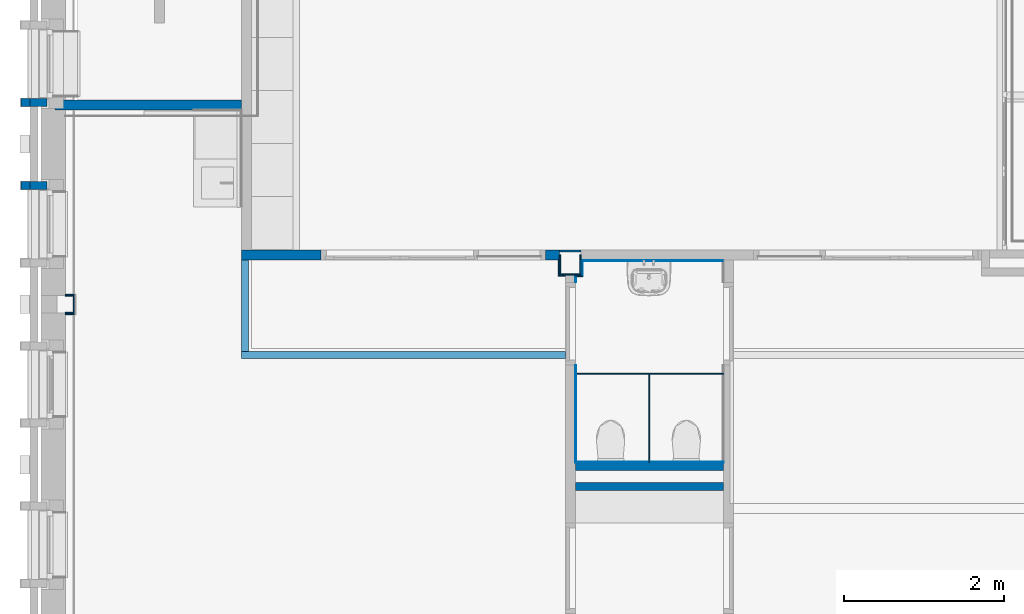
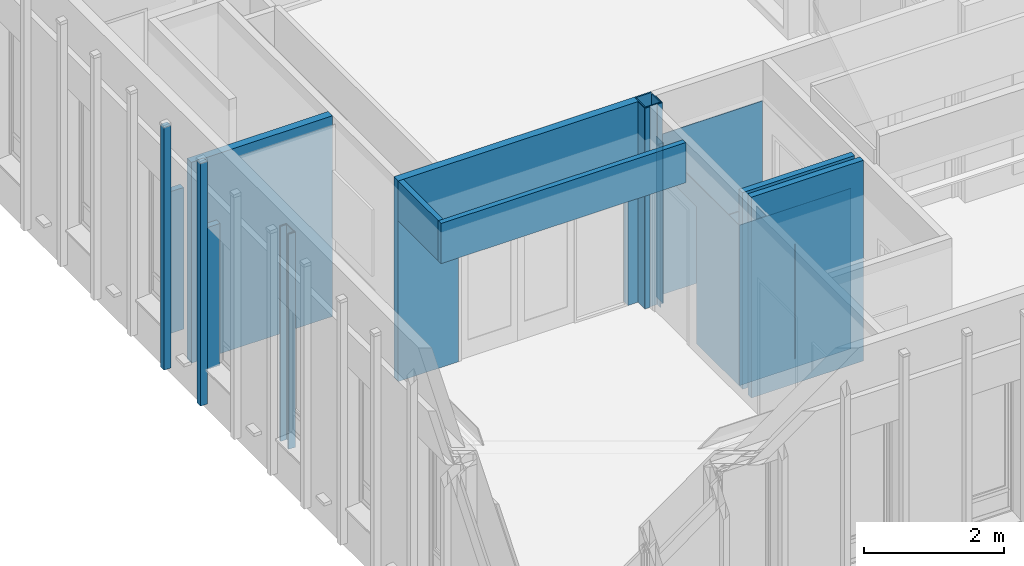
# One storey, part 34 of 118: 30 walls, 2 openings.
"""IFC2X3 building model written with IfcOpenShell, lengths in millimetres."""

import ifcopenshell
import ifcopenshell.guid

model = None  # the IFC model being written
_history = None  # IfcOwnerHistory: only IFC2X3 demands one
_inside = {}  # id of a spatial element -> (the spatial element, [elements in it])
_under = {}  # id of a project, library or spatial element -> (it, [spatial elements below it])
_declared = {}  # id of a project -> (the project, [libraries it declares])
_typed = {}  # id of a type object -> (the type object, [elements of that type])
_made_of = {}  # id of a material, layer set ... -> (it, [elements and type objects made of it])


def new_model(schema):
    """Start an empty IFC model of exactly this schema.

    Asked for "IFC4X3", IfcOpenShell would pick the latest addendum, in which some entities
    have other attributes; the version numbers below select the first issue.
    IFC2X3 requires an IfcOwnerHistory on every rooted entity: one is made here for all.
    """
    global model, _history
    if schema == "IFC4X3":
        model = ifcopenshell.file(schema_version=(4, 3, 0, 0))
    else:
        model = ifcopenshell.file(schema=schema)
    _inside.clear()
    _under.clear()
    _declared.clear()
    _typed.clear()
    _made_of.clear()
    _history = None
    if model.schema == "IFC2X3":
        org = make("IfcOrganization", Name="unknown")
        user = make(
            "IfcPersonAndOrganization",
            ThePerson=make("IfcPerson", FamilyName="unknown"),
            TheOrganization=org,
        )
        app = make(
            "IfcApplication",
            ApplicationDeveloper=org,
            Version="unknown",
            ApplicationFullName="unknown",
            ApplicationIdentifier="unknown",
        )
        _history = make(
            "IfcOwnerHistory",
            OwningUser=user,
            OwningApplication=app,
            ChangeAction="ADDED",
            CreationDate=0,
        )
    return model


def make(cls, **values):
    """One entity of the class cls with the attributes given. An attribute that is None is left unset."""
    return model.create_entity(
        cls, **{name: value for name, value in values.items() if value is not None}
    )


def entity(cls, *values):
    """Any entity or typed value of the class cls, its attributes in the order of the schema. None: left unset."""
    e = model.create_entity(cls)
    for i, value in enumerate(values):
        if value is not None:
            e[i] = value
    return e


def rooted(cls, **values):
    """An entity with a GlobalId (a new one), such as an element, a storey or a relation."""
    return make(cls, GlobalId=ifcopenshell.guid.new(), OwnerHistory=_history, **values)


def si_unit(unit_type, name, prefix=None):
    """IfcSIUnit, for example si_unit("LENGTHUNIT", "METRE", prefix="MILLI")."""
    return make("IfcSIUnit", UnitType=unit_type, Prefix=prefix, Name=name)


def converted_unit(unit_type, name, factor, base, dimensions=None, offset=None):
    """IfcConversionBasedUnit, such as the inch: factor (a typed value) times the base unit."""
    return make(
        "IfcConversionBasedUnit"
        if offset is None
        else "IfcConversionBasedUnitWithOffset",
        ConversionOffset=offset,
        Dimensions=None
        if dimensions is None
        else entity("IfcDimensionalExponents", *dimensions),
        UnitType=unit_type,
        Name=name,
        ConversionFactor=make(
            "IfcMeasureWithUnit", ValueComponent=factor, UnitComponent=base
        ),
    )


def derived_unit(unit_type, elements):
    """IfcDerivedUnit: a product of units, each with its exponent."""
    return make(
        "IfcDerivedUnit",
        Elements=[
            make("IfcDerivedUnitElement", Unit=unit, Exponent=power)
            for unit, power in elements
        ],
        UnitType=unit_type,
    )


def assignment(units):
    """IfcUnitAssignment: the units of a project."""
    return None if units is None else make("IfcUnitAssignment", Units=units)


def point(xyz):
    """IfcCartesianPoint."""
    return None if xyz is None else make("IfcCartesianPoint", Coordinates=xyz)


def direction(xyz):
    """IfcDirection."""
    return None if xyz is None else make("IfcDirection", DirectionRatios=xyz)


def frame(location, z_axis=None, x_axis=None):
    """IfcAxis2Placement3D, a coordinate frame: its origin and axes. An axis left out is left unset."""
    return make(
        "IfcAxis2Placement3D",
        Location=point(location),
        Axis=direction(z_axis),
        RefDirection=direction(x_axis),
    )


def frame_2d(location, x_axis=None):
    """IfcAxis2Placement2D, a coordinate frame in the plane: its origin and x axis."""
    return make(
        "IfcAxis2Placement2D", Location=point(location), RefDirection=direction(x_axis)
    )


def origin():
    """The frame at (0, 0, 0) with its axes left unset."""
    return frame((0.0, 0.0, 0.0))


def origin_2d_with_axis():
    """The frame at (0, 0) in the plane with the x axis (1, 0) written out."""
    return frame_2d((0.0, 0.0), x_axis=(1.0, 0.0))


def place(relative_to, where):
    """IfcLocalPlacement: puts the frame where relative to a parent placement (None: the world)."""
    return make(
        "IfcLocalPlacement", PlacementRelTo=relative_to, RelativePlacement=where
    )


def context(
    kind, dimensions, precision=None, world=None, true_north=None, identifier=None
):
    """IfcGeometricRepresentationContext, for example the 3D "Model" context."""
    return make(
        "IfcGeometricRepresentationContext",
        ContextIdentifier=identifier,
        ContextType=kind,
        CoordinateSpaceDimension=dimensions,
        Precision=precision,
        WorldCoordinateSystem=world,
        TrueNorth=true_north,
    )


def subcontext(parent, identifier, kind, view, scale=None):
    """IfcGeometricRepresentationSubContext, for example "Body" below "Model"."""
    return make(
        "IfcGeometricRepresentationSubContext",
        ContextIdentifier=identifier,
        ContextType=kind,
        ParentContext=parent,
        TargetScale=scale,
        TargetView=view,
    )


def project(units=None, contexts=None):
    """IfcProject with its units and contexts."""
    return rooted(
        "IfcProject",
        Name="project",
        RepresentationContexts=contexts,
        UnitsInContext=assignment(units),
    )


def spatial(cls, under=None, at=None, **own):
    """A site, building, storey or space (cls), placed at a placement, below another one or the project."""
    s = rooted(cls, ObjectPlacement=at, **own)
    if under is not None:
        _under.setdefault(under.id(), (under, []))[1].append(s)
    return s


def profile(cls, at=None, kind="AREA", **sizes):
    """A parametric profile (cls). Its sizes go by their IFC names, for example OverallWidth=200.0."""
    return make(cls, ProfileType=kind, Position=at, **sizes)


def rectangle(**sizes):
    """IfcRectangleProfileDef."""
    return profile("IfcRectangleProfileDef", **sizes)


def extrude(swept, where, along, depth):
    """IfcExtrudedAreaSolid: the profile swept, set in the frame where, extruded along a direction by depth."""
    return make(
        "IfcExtrudedAreaSolid",
        SweptArea=swept,
        Position=where,
        ExtrudedDirection=direction(along),
        Depth=depth,
    )


def shape(context_of_items, identifier, shape_type, items):
    """IfcShapeRepresentation: the items that make up one representation, for example the "Body"."""
    return make(
        "IfcShapeRepresentation",
        ContextOfItems=context_of_items,
        RepresentationIdentifier=identifier,
        RepresentationType=shape_type,
        Items=items,
    )


def material(Name=None, Category=None):
    """IfcMaterial."""
    return make("IfcMaterial", Name=Name, Category=Category)


def layer(
    of_material, thickness, ventilated=None, Name=None, Category=None, Priority=None
):
    """IfcMaterialLayer: one layer of a wall or slab, of a material (None: an air gap)."""
    return make(
        "IfcMaterialLayer",
        Material=of_material,
        LayerThickness=thickness,
        IsVentilated=ventilated,
        Name=Name,
        Category=Category,
        Priority=Priority,
    )


def layer_set(layers, Name=None):
    """IfcMaterialLayerSet."""
    return make("IfcMaterialLayerSet", MaterialLayers=layers, LayerSetName=Name)


def layer_usage(for_layer_set, set_direction, sense, offset, extent=None):
    """IfcMaterialLayerSetUsage: how a layer set lies in its element."""
    return make(
        "IfcMaterialLayerSetUsage",
        ForLayerSet=for_layer_set,
        LayerSetDirection=set_direction,
        DirectionSense=sense,
        OffsetFromReferenceLine=offset,
        ReferenceExtent=extent,
    )


def made_of(thing, what):
    """Note that an element or type object is made of a material, layer set ...; save() writes the relation."""
    if what is not None:
        _made_of.setdefault(what.id(), (what, []))[1].append(thing)
    return thing


def type_object(cls, material=None, **own):
    """A type object (cls), such as IfcWallType, which elements share."""
    return made_of(rooted(cls, **own), material)


def element(
    cls,
    number,
    at=None,
    inside=None,
    cuts=None,
    type_object=None,
    material=None,
    context=None,
    identifier="Body",
    shape_type=None,
    held_by="IfcProductDefinitionShape",
    body=None,
    shapes=None,
    **own,
):
    """One element of the class cls, such as IfcWall. Its Tag is "e" and its number.

    at: its placement. inside: the storey or other place that contains it. cuts: it is an
    opening in that element (IfcRelVoidsElement). A single representation is given by context,
    identifier, shape_type and body (its items); several are given by shapes. held_by: the class
    of the entity that holds the representations. save() writes the other relations.
    """
    e = rooted(cls, Tag="e%d" % number, ObjectPlacement=at, **own)
    if body is not None:
        shapes = [shape(context, identifier, shape_type, body)]
    if shapes is not None:
        e.Representation = make(held_by, Representations=shapes)
    if inside is not None:
        _inside.setdefault(inside.id(), (inside, []))[1].append(e)
    if cuts is not None:
        rooted(
            "IfcRelVoidsElement", RelatingBuildingElement=cuts, RelatedOpeningElement=e
        )
    if type_object is not None:
        _typed.setdefault(type_object.id(), (type_object, []))[1].append(e)
    return made_of(e, material)


def aggregate(whole, parts):
    """IfcRelAggregates: a whole, such as a stair, and the parts it consists of."""
    return rooted("IfcRelAggregates", RelatingObject=whole, RelatedObjects=parts)


def save(model, path):
    """Write the relations noted so far, then the file.

    IfcRelAggregates (storeys below a building ...), IfcRelContainedInSpatialStructure (elements
    in a storey), IfcRelDefinesByType, IfcRelAssociatesMaterial and IfcRelDeclares: one each for
    every whole, place, type object, material and project.
    """
    for whole, parts in _under.values():
        aggregate(whole, parts)
    for where, things in _inside.values():
        rooted(
            "IfcRelContainedInSpatialStructure",
            RelatedElements=things,
            RelatingStructure=where,
        )
    for kind, things in _typed.values():
        rooted("IfcRelDefinesByType", RelatedObjects=things, RelatingType=kind)
    for what, things in _made_of.values():
        rooted("IfcRelAssociatesMaterial", RelatedObjects=things, RelatingMaterial=what)
    for by, libraries in _declared.values():
        rooted("IfcRelDeclares", RelatingContext=by, RelatedDefinitions=libraries)
    model.write(path)


model = new_model("IFC2X3")

# Units and contexts
model_context = context("Model", 3, precision=0.01, world=origin(), true_north=direction((6.123031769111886e-17, 1.0)))
plan_context = context("Plan", 3, precision=0.01, world=origin(), true_north=direction((6.123031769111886e-17, 1.0)))
body_context = subcontext(model_context, "Body", "Model", "MODEL_VIEW")
ifc_project = project(units=[si_unit("LENGTHUNIT", "METRE", prefix="MILLI"), si_unit("AREAUNIT", "SQUARE_METRE"), si_unit("VOLUMEUNIT", "CUBIC_METRE"), converted_unit("PLANEANGLEUNIT", "DEGREE", entity("IfcRatioMeasure", 0.017453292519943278), si_unit("PLANEANGLEUNIT", "RADIAN"), dimensions=[0, 0, 0, 0, 0, 0, 0]), si_unit("MASSUNIT", "GRAM", prefix="KILO"), derived_unit("MASSDENSITYUNIT", [(si_unit("MASSUNIT", "GRAM", prefix="KILO"), 1), (si_unit("LENGTHUNIT", "METRE"), -3)]), derived_unit("IONCONCENTRATIONUNIT", [(si_unit("MASSUNIT", "GRAM", prefix="KILO"), 1), (si_unit("LENGTHUNIT", "METRE"), -3)]), derived_unit("MOMENTOFINERTIAUNIT", [(si_unit("LENGTHUNIT", "METRE"), 4)]), si_unit("TIMEUNIT", "SECOND"), si_unit("FREQUENCYUNIT", "HERTZ"), si_unit("THERMODYNAMICTEMPERATUREUNIT", "DEGREE_CELSIUS"), derived_unit("THERMALTRANSMITTANCEUNIT", [(si_unit("MASSUNIT", "GRAM", prefix="KILO"), 1), (si_unit("THERMODYNAMICTEMPERATUREUNIT", "KELVIN"), -1), (si_unit("TIMEUNIT", "SECOND"), -3)]), derived_unit("THERMALCONDUCTANCEUNIT", [(si_unit("MASSUNIT", "GRAM", prefix="KILO"), 1), (si_unit("THERMODYNAMICTEMPERATUREUNIT", "KELVIN"), -1), (si_unit("TIMEUNIT", "SECOND"), -3), (si_unit("LENGTHUNIT", "METRE"), 1)]), derived_unit("VOLUMETRICFLOWRATEUNIT", [(si_unit("LENGTHUNIT", "METRE"), 3), (si_unit("TIMEUNIT", "SECOND"), -1)]), derived_unit("MASSFLOWRATEUNIT", [(si_unit("MASSUNIT", "GRAM", prefix="KILO"), 1), (si_unit("TIMEUNIT", "SECOND"), -1)]), derived_unit("ROTATIONALFREQUENCYUNIT", [(si_unit("TIMEUNIT", "SECOND"), -1)]), si_unit("ELECTRICCURRENTUNIT", "AMPERE"), si_unit("ELECTRICVOLTAGEUNIT", "VOLT"), si_unit("POWERUNIT", "WATT"), si_unit("FORCEUNIT", "NEWTON", prefix="KILO"), si_unit("ILLUMINANCEUNIT", "LUX"), si_unit("LUMINOUSFLUXUNIT", "LUMEN"), si_unit("LUMINOUSINTENSITYUNIT", "CANDELA"), derived_unit("USERDEFINED", [(si_unit("MASSUNIT", "GRAM", prefix="KILO"), -1), (si_unit("LENGTHUNIT", "METRE"), -2), (si_unit("TIMEUNIT", "SECOND"), 3), (si_unit("LUMINOUSFLUXUNIT", "LUMEN"), 1)]), derived_unit("USERDEFINED", [(si_unit("MASSUNIT", "GRAM", prefix="KILO"), 1), (si_unit("TIMEUNIT", "SECOND"), -3), (si_unit("LENGTHUNIT", "METRE"), 3), (si_unit("ELECTRICCURRENTUNIT", "AMPERE"), -2)]), derived_unit("SOUNDPOWERUNIT", [(si_unit("MASSUNIT", "GRAM", prefix="KILO"), 1), (si_unit("TIMEUNIT", "SECOND"), -3), (si_unit("LENGTHUNIT", "METRE"), 2)]), derived_unit("SOUNDPRESSUREUNIT", [(si_unit("MASSUNIT", "GRAM", prefix="KILO"), 1), (si_unit("LENGTHUNIT", "METRE"), -1), (si_unit("TIMEUNIT", "SECOND"), -2)]), derived_unit("LINEARVELOCITYUNIT", [(si_unit("LENGTHUNIT", "METRE"), 1), (si_unit("TIMEUNIT", "SECOND"), -1)]), si_unit("PRESSUREUNIT", "PASCAL"), derived_unit("USERDEFINED", [(si_unit("MASSUNIT", "GRAM", prefix="KILO"), 1), (si_unit("LENGTHUNIT", "METRE"), -2), (si_unit("TIMEUNIT", "SECOND"), -2)]), derived_unit("LINEARFORCEUNIT", [(si_unit("MASSUNIT", "GRAM", prefix="KILO"), 1), (si_unit("TIMEUNIT", "SECOND"), -2)]), derived_unit("PLANARFORCEUNIT", [(si_unit("MASSUNIT", "GRAM", prefix="KILO"), 1), (si_unit("LENGTHUNIT", "METRE"), -1), (si_unit("TIMEUNIT", "SECOND"), -2)]), derived_unit("SPECIFICHEATCAPACITYUNIT", [(si_unit("THERMODYNAMICTEMPERATUREUNIT", "KELVIN"), -1), (si_unit("LENGTHUNIT", "METRE"), 2), (si_unit("TIMEUNIT", "SECOND"), -2)]), derived_unit("HEATINGVALUEUNIT", [(si_unit("LENGTHUNIT", "METRE"), 2), (si_unit("TIMEUNIT", "SECOND"), -2)]), derived_unit("VAPORPERMEABILITYUNIT", [(si_unit("LENGTHUNIT", "METRE"), -1), (si_unit("TIMEUNIT", "SECOND"), 1)]), derived_unit("DYNAMICVISCOSITYUNIT", [(si_unit("MASSUNIT", "GRAM", prefix="KILO"), 1), (si_unit("TIMEUNIT", "SECOND"), -1), (si_unit("LENGTHUNIT", "METRE"), -1)]), derived_unit("THERMALEXPANSIONCOEFFICIENTUNIT", [(si_unit("THERMODYNAMICTEMPERATUREUNIT", "KELVIN"), -1)]), derived_unit("MODULUSOFELASTICITYUNIT", [(si_unit("MASSUNIT", "GRAM", prefix="KILO"), 1), (si_unit("LENGTHUNIT", "METRE"), -1), (si_unit("TIMEUNIT", "SECOND"), -2)]), derived_unit("ISOTHERMALMOISTURECAPACITYUNIT", [(si_unit("LENGTHUNIT", "METRE"), 3), (si_unit("MASSUNIT", "GRAM", prefix="KILO"), -1)]), derived_unit("MOISTUREDIFFUSIVITYUNIT", [(si_unit("TIMEUNIT", "SECOND"), -1), (si_unit("LENGTHUNIT", "METRE"), 2)])], contexts=[model_context, plan_context])

# Site, building, storey
site_placement = place(None, origin())
site = spatial("IfcSite", under=ifc_project, at=site_placement, Name="Locatie", CompositionType="ELEMENT")
building_placement = place(site_placement, origin())
building = spatial("IfcBuilding", under=site, at=building_placement, Name="Bouwwerk", CompositionType="ELEMENT")
storey_placement = place(building_placement, frame((0.0, 0.0, 7800.0)))
storey = spatial("IfcBuildingStorey", under=building, at=storey_placement, Name="02 tweede verdieping", CompositionType="ELEMENT", Elevation=7800.000000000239)

# Walls
ifc_material_1 = material(Name="g2_metselwerk_geel licht")
ifc_layer_1 = layer(ifc_material_1, 100.0)
ifc_layer_set_1 = layer_set([ifc_layer_1], Name="Basic Wall:21_WA_metselwerk_licht_100_gen_bdg")
ifc_layer_usage_1 = layer_usage(ifc_layer_set_1, "AXIS2", "NEGATIVE", 50.0)
wall_type_1 = type_object("IfcWallType", Name="Basic Wall:21_WA_metselwerk_licht_100_gen_bdg", PredefinedType="STANDARD", material=ifc_layer_set_1)
wall_1_placement = place(storey_placement, frame((9770.0, 18682.0, 603.0), z_axis=(0.0, 0.0, 1.0), x_axis=(-1.0, 0.0, 0.0)))
element("IfcWallStandardCase", 1, at=wall_1_placement, inside=storey, type_object=wall_type_1, material=ifc_layer_usage_1, Name="Basic Wall:21_WA_metselwerk_licht_100_gen_bdg", ObjectType="Basic Wall:21_WA_metselwerk_licht_100_gen_bdg", context=body_context, shape_type="SweptSolid", body=[
    extrude(rectangle(XDim=210.00000000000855, YDim=99.99999999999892, at=frame_2d((105.00000000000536, 6.181721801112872e-13), x_axis=(-1.0, 0.0))), origin(), (0.0, 0.0, 1.0), 2471.999999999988),
])
wall_2_placement = place(storey_placement, frame((9560.0, 18682.0, 0.0), z_axis=(0.0, 0.0, 1.0), x_axis=(-1.0, 0.0, 0.0)))
element("IfcWallStandardCase", 2, at=wall_2_placement, inside=storey, type_object=wall_type_1, material=ifc_layer_usage_1, Name="Basic Wall:21_WA_metselwerk_licht_100_gen_bdg", ObjectType="Basic Wall:21_WA_metselwerk_licht_100_gen_bdg", context=body_context, shape_type="SweptSolid", body=[
    extrude(rectangle(XDim=114.99999999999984, YDim=99.99999999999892, at=frame_2d((57.49999999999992, -9.201528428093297e-13), x_axis=(-1.0, 0.0))), origin(), (0.0, 0.0, 1.0), 4232.000000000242),
])
ifc_layer_usage_2 = layer_usage(ifc_layer_set_1, "AXIS2", "POSITIVE", -50.0)
wall_3_placement = place(storey_placement, frame((9770.0, 19718.0, 603.0), z_axis=(0.0, 0.0, 1.0), x_axis=(-1.0, 0.0, 0.0)))
element("IfcWallStandardCase", 3, at=wall_3_placement, inside=storey, type_object=wall_type_1, material=ifc_layer_usage_2, Name="Basic Wall:21_WA_metselwerk_licht_100_gen_bdg", ObjectType="Basic Wall:21_WA_metselwerk_licht_100_gen_bdg", context=body_context, shape_type="SweptSolid", body=[
    extrude(rectangle(XDim=210.00000000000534, YDim=100.00000000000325, at=frame_2d((105.00000000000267, 1.0196288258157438e-12), x_axis=(-1.0, 0.0))), origin(), (0.0, 0.0, 1.0), 2471.999999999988),
])
wall_4_placement = place(storey_placement, frame((9560.0, 19718.0, 0.0), z_axis=(0.0, 0.0, 1.0), x_axis=(-1.0, 0.0, 0.0)))
element("IfcWallStandardCase", 4, at=wall_4_placement, inside=storey, type_object=wall_type_1, material=ifc_layer_usage_2, Name="Basic Wall:21_WA_metselwerk_licht_100_gen_bdg", ObjectType="Basic Wall:21_WA_metselwerk_licht_100_gen_bdg", context=body_context, shape_type="SweptSolid", body=[
    extrude(rectangle(XDim=114.99999999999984, YDim=100.00000000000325, at=frame_2d((57.49999999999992, 1.2434497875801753e-12), x_axis=(-1.0, 0.0))), origin(), (0.0, 0.0, 1.0), 4231.99999999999),
])

# Wall, opening
ifc_material_2 = material(Name="f7_gipsvezel")
ifc_layer_2 = layer(ifc_material_2, 12.5)
ifc_material_3 = material(Name="f7_gips")
ifc_layer_3 = layer(ifc_material_3, 12.5)
ifc_material_4 = material(Name="n7_isolatie_glaswol")
ifc_layer_4 = layer(ifc_material_4, 75.0)
ifc_layer_5 = layer(ifc_material_3, 12.5)
ifc_layer_6 = layer(ifc_material_2, 12.5)
ifc_layer_set_2 = layer_set([ifc_layer_2, ifc_layer_3, ifc_layer_4, ifc_layer_5, ifc_layer_6], Name="Basic Wall: 25-75-25 _gen_bdg")
ifc_layer_usage_3 = layer_usage(ifc_layer_set_2, "AXIS2", "NEGATIVE", 62.50000000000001)
wall_type_2 = type_object("IfcWallType", Name="Basic Wall: 25-75-25 _gen_bdg", PredefinedType="STANDARD", material=ifc_layer_set_2)
wall_5_placement = place(storey_placement, frame((12200.0, 17812.499999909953, 0.0)))
wall_5 = element("IfcWallStandardCase", 5, at=wall_5_placement, inside=storey, type_object=wall_type_2, material=ifc_layer_usage_3, Name="Basic Wall: 25-75-25 _gen_bdg", ObjectType="Basic Wall: 25-75-25 _gen_bdg", context=body_context, shape_type="SweptSolid", body=[
    extrude(rectangle(XDim=3964.999999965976, YDim=125.0000000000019, at=frame_2d((1982.499999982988, -3.552713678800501e-14), x_axis=(-1.0, 0.0))), origin(), (0.0, 0.0, 1.0), 3500.0000000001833),
])
opening_1_placement = place(wall_5_placement, frame((-12200.0, -17812.499999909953, 0.0)))
element("IfcOpeningElement", 6, at=opening_1_placement, cuts=wall_5, Name="Basic Wall: 25-75-25 _gen_bdg", ObjectType="Opening", context=body_context, shape_type="SweptSolid", body=[
    extrude(rectangle(XDim=2386.9999999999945, YDim=2796.000000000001, at=origin_2d_with_axis()), frame((14589.499999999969, 16351.0, 1193.4999999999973), z_axis=(0.0, 1.0, 0.0), x_axis=(0.0, 0.0, 1.0)), (0.0, 0.0, 1.0), 3048.0),
])

# Walls
wall_6_placement = place(storey_placement, frame((12200.0, 19687.500000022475, 0.0), z_axis=(0.0, 0.0, 1.0), x_axis=(-1.0, 0.0, 0.0)))
element("IfcWallStandardCase", 7, at=wall_6_placement, inside=storey, type_object=wall_type_2, material=ifc_layer_usage_3, Name="Basic Wall: 25-75-25 _gen_bdg", ObjectType="Basic Wall: 25-75-25 _gen_bdg", context=body_context, shape_type="SweptSolid", body=[
    extrude(rectangle(XDim=2330.0000000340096, YDim=124.99999999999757, at=frame_2d((1165.0000000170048, 1.3145040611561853e-13), x_axis=(-1.0, 0.0))), origin(), (0.0, 0.0, 1.0), 3500.0000000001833),
])
ifc_layer_7 = layer(ifc_material_2, 12.5)
ifc_layer_8 = layer(ifc_material_3, 12.5)
ifc_layer_9 = layer(ifc_material_4, 75.0)
ifc_layer_set_3 = layer_set([ifc_layer_7, ifc_layer_8, ifc_layer_9], Name="Basic Wall:22_WA_voorzetwand_ms100 25-75 _gen_bdg")
ifc_layer_usage_4 = layer_usage(ifc_layer_set_3, "AXIS2", "POSITIVE", -50.0)
wall_type_3 = type_object("IfcWallType", Name="Basic Wall:22_WA_voorzetwand_ms100 25-75 _gen_bdg", PredefinedType="STANDARD", material=ifc_layer_set_3)
wall_7_placement = place(storey_placement, frame((16362.500000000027, 14925.0, 0.0)))
element("IfcWallStandardCase", 8, at=wall_7_placement, inside=storey, type_object=wall_type_3, material=ifc_layer_usage_4, Name="Basic Wall:22_WA_voorzetwand_ms100 25-75 _gen_bdg", ObjectType="Basic Wall:22_WA_voorzetwand_ms100 25-75 _gen_bdg", context=body_context, shape_type="SweptSolid", body=[
    extrude(rectangle(XDim=1850.0000000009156, YDim=99.99999999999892, at=frame_2d((925.0000000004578, -1.2434497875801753e-13), x_axis=(-1.0, 0.0))), origin(), (0.0, 0.0, 1.0), 3500.0000000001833),
])
ifc_layer_usage_5 = layer_usage(ifc_layer_set_3, "AXIS2", "NEGATIVE", 50.0)
wall_8_placement = place(storey_placement, frame((16362.500000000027, 15175.0, 0.0)))
element("IfcWallStandardCase", 9, at=wall_8_placement, inside=storey, type_object=wall_type_3, material=ifc_layer_usage_5, Name="Basic Wall:22_WA_voorzetwand_ms100 25-75 _gen_bdg", ObjectType="Basic Wall:22_WA_voorzetwand_ms100 25-75 _gen_bdg", context=body_context, shape_type="SweptSolid", body=[
    extrude(rectangle(XDim=1850.0000000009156, YDim=99.99999999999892, at=frame_2d((925.0000000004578, 0.0), x_axis=(-1.0, 0.0))), origin(), (0.0, 0.0, 1.0), 3430.0000000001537),
])
ifc_layer_10 = layer(ifc_material_2, 13.000000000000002)
ifc_layer_set_4 = layer_set([ifc_layer_10], Name="Basic Wall:NLRS_41_WA_gips 13_gen_ISR")
ifc_layer_usage_6 = layer_usage(ifc_layer_set_4, "AXIS2", "NEGATIVE", 6.500000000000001)
wall_type_4 = type_object("IfcWallType", Name="Basic Wall:NLRS_41_WA_gips 13_gen_ISR", PredefinedType="STANDARD", material=ifc_layer_set_4)
wall_9_placement = place(storey_placement, frame((10115.0, 17077.74451381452, 0.0), z_axis=(0.0, 0.0, 1.0), x_axis=(-1.0, 0.0, 0.0)))
element("IfcWallStandardCase", 10, at=wall_9_placement, inside=storey, type_object=wall_type_4, material=ifc_layer_usage_6, Name="Basic Wall:NLRS_41_WA_gips 13_gen_ISR", ObjectType="Basic Wall:NLRS_41_WA_gips 13_gen_ISR", context=body_context, shape_type="SweptSolid", body=[
    extrude(rectangle(XDim=115.00000000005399, YDim=13.000000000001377, at=frame_2d((57.50000000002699, -3.965716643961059e-13), x_axis=(-1.0, 0.0))), origin(), (0.0, 0.0, 1.0), 3750.000000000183),
])
ifc_layer_usage_7 = layer_usage(ifc_layer_set_4, "AXIS2", "POSITIVE", -6.500000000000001)
wall_10_placement = place(storey_placement, frame((10115.0, 17320.744513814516, 0.0), z_axis=(0.0, 0.0, 1.0), x_axis=(-1.0, 0.0, 0.0)))
element("IfcWallStandardCase", 11, at=wall_10_placement, inside=storey, type_object=wall_type_4, material=ifc_layer_usage_7, Name="Basic Wall:NLRS_41_WA_gips 13_gen_ISR", ObjectType="Basic Wall:NLRS_41_WA_gips 13_gen_ISR", context=body_context, shape_type="SweptSolid", body=[
    extrude(rectangle(XDim=115.00000000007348, YDim=13.000000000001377, at=frame_2d((57.50000000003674, -3.965716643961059e-13), x_axis=(-1.0, 0.0))), origin(), (0.0, 0.0, 1.0), 3750.000000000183),
])
wall_11_placement = place(storey_placement, frame((16237.50000000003, 17558.499999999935, 0.0), z_axis=(0.0, 0.0, 1.0), x_axis=(-1.0, 0.0, 0.0)))
element("IfcWallStandardCase", 12, at=wall_11_placement, inside=storey, type_object=wall_type_4, material=ifc_layer_usage_6, Name="Basic Wall:NLRS_41_WA_gips 13_gen_ISR", ObjectType="Basic Wall:NLRS_41_WA_gips 13_gen_ISR", context=body_context, shape_type="SweptSolid", body=[
    extrude(rectangle(XDim=85.50000000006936, YDim=13.000000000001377, at=frame_2d((42.75000000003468, 0.0), x_axis=(-1.0, 0.0))), origin(), (0.0, 0.0, 1.0), 3500.0000000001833),
])
wall_12_placement = place(storey_placement, frame((16158.49999999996, 17565.0, 0.0), z_axis=(0.0, 0.0, 1.0), x_axis=(0.0, 1.0, 0.0)))
element("IfcWallStandardCase", 13, at=wall_12_placement, inside=storey, type_object=wall_type_4, material=ifc_layer_usage_6, Name="Basic Wall:NLRS_41_WA_gips 13_gen_ISR", ObjectType="Basic Wall:NLRS_41_WA_gips 13_gen_ISR", context=body_context, shape_type="SweptSolid", body=[
    extrude(rectangle(XDim=184.9999999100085, YDim=13.000000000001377, at=frame_2d((92.49999995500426, 0.0), x_axis=(-1.0, 0.0))), origin(), (0.0, 0.0, 1.0), 3500.0000000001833),
])
wall_13_placement = place(storey_placement, frame((16448.0, 17558.499999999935, 0.0), z_axis=(0.0, 0.0, 1.0), x_axis=(-1.0, 0.0, 0.0)))
element("IfcWallStandardCase", 14, at=wall_13_placement, inside=storey, type_object=wall_type_4, material=ifc_layer_usage_6, Name="Basic Wall:NLRS_41_WA_gips 13_gen_ISR", ObjectType="Basic Wall:NLRS_41_WA_gips 13_gen_ISR", context=body_context, shape_type="SweptSolid", body=[
    extrude(rectangle(XDim=85.49999999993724, YDim=13.000000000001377, at=frame_2d((42.74999999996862, 0.0), x_axis=(-1.0, 0.0))), origin(), (0.0, 0.0, 1.0), 3500.0000000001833),
])
wall_14_placement = place(storey_placement, frame((16441.499999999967, 17750.0, 0.0), z_axis=(0.0, 0.0, 1.0), x_axis=(0.0, -1.0, 0.0)))
element("IfcWallStandardCase", 15, at=wall_14_placement, inside=storey, type_object=wall_type_4, material=ifc_layer_usage_6, Name="Basic Wall:NLRS_41_WA_gips 13_gen_ISR", ObjectType="Basic Wall:NLRS_41_WA_gips 13_gen_ISR", context=body_context, shape_type="SweptSolid", body=[
    extrude(rectangle(XDim=184.99999991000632, YDim=13.000000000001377, at=frame_2d((92.49999995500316, 0.0), x_axis=(-1.0, 0.0))), origin(), (0.0, 0.0, 1.0), 3500.0000000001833),
])
ifc_material_5 = material(Name="a_binnenwand_gen")
ifc_layer_11 = layer(ifc_material_5, 13.000000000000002)
ifc_layer_set_5 = layer_set([ifc_layer_11], Name="Basic Wall:NLRS_41_WA_sanitairwand 13_gen_ISR")
ifc_layer_usage_8 = layer_usage(ifc_layer_set_5, "AXIS2", "NEGATIVE", 6.500000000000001)
wall_type_5 = type_object("IfcWallType", Name="Basic Wall:NLRS_41_WA_sanitairwand 13_gen_ISR", PredefinedType="STANDARD", material=ifc_layer_set_5)
wall_15_placement = place(storey_placement, frame((16362.50000000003, 16331.500019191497, 150.0)))
element("IfcWallStandardCase", 16, at=wall_15_placement, inside=storey, type_object=wall_type_5, material=ifc_layer_usage_8, Name="Basic Wall:NLRS_41_WA_sanitairwand 13_gen_ISR", ObjectType="Basic Wall:NLRS_41_WA_sanitairwand 13_gen_ISR", context=body_context, shape_type="SweptSolid", body=[
    extrude(rectangle(XDim=1850.0000000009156, YDim=13.000000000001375, at=frame_2d((925.0000000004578, -2.1760371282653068e-14), x_axis=(-1.0, 0.0))), origin(), (0.0, 0.0, 1.0), 2000.0000000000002),
])
wall_16_placement = place(storey_placement, frame((17287.500000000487, 16325.0, 150.0), z_axis=(0.0, 0.0, 1.0), x_axis=(0.0, -1.0, 0.0)))
element("IfcWallStandardCase", 17, at=wall_16_placement, inside=storey, type_object=wall_type_5, material=ifc_layer_usage_8, Name="Basic Wall:NLRS_41_WA_sanitairwand 13_gen_ISR", ObjectType="Basic Wall:NLRS_41_WA_sanitairwand 13_gen_ISR", context=body_context, shape_type="SweptSolid", body=[
    extrude(rectangle(XDim=1100.0000000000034, YDim=13.000000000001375, at=frame_2d((550.0000000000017, -2.2026824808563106e-13), x_axis=(-1.0, 0.0))), origin(), (0.0, 0.0, 1.0), 2000.0000000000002),
])
ifc_layer_12 = layer(ifc_material_2, 13.000000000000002)
ifc_material_6 = material(Name="ISR_Luchtspouw")
ifc_layer_13 = layer(ifc_material_6, 71.0)
ifc_layer_set_6 = layer_set([ifc_layer_12, ifc_layer_13], Name="Basic Wall:22_WA_koof_83 12-71")
ifc_layer_usage_9 = layer_usage(ifc_layer_set_6, "AXIS2", "NEGATIVE", 41.99999999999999)
wall_type_6 = type_object("IfcWallType", Name="Basic Wall:22_WA_koof_83 12-71", PredefinedType="STANDARD", material=ifc_layer_set_6)
wall_17_placement = place(storey_placement, frame((16237.500000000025, 16567.0, 2800.0), z_axis=(0.0, 0.0, 1.0), x_axis=(-1.0, 0.0, 0.0)))
element("IfcWallStandardCase", 18, at=wall_17_placement, inside=storey, type_object=wall_type_6, material=ifc_layer_usage_9, Name="Basic Wall:22_WA_koof_83 12-71", ObjectType="Basic Wall:22_WA_koof_83 12-71", context=body_context, shape_type="SweptSolid", body=[
    extrude(rectangle(XDim=4037.499999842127, YDim=83.99999999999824, at=frame_2d((2018.7499999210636, 1.2079226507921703e-13), x_axis=(-1.0, 0.0))), origin(), (0.0, 0.0, 1.0), 700.000000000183),
])
wall_18_placement = place(storey_placement, frame((12242.0, 16609.0, 2800.0), z_axis=(0.0, 0.0, 1.0), x_axis=(0.0, 1.0, 0.0)))
element("IfcWallStandardCase", 19, at=wall_18_placement, inside=storey, type_object=wall_type_6, material=ifc_layer_usage_9, Name="Basic Wall:22_WA_koof_83 12-71", ObjectType="Basic Wall:22_WA_koof_83 12-71", context=body_context, shape_type="SweptSolid", body=[
    extrude(rectangle(XDim=1140.9999998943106, YDim=83.99999999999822, at=frame_2d((570.4999999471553, 0.0), x_axis=(-1.0, 0.0))), origin(), (0.0, 0.0, 1.0), 700.000000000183),
])
ifc_material_7 = material(Name="g3_tegels_creme_150x150")
ifc_layer_14 = layer(ifc_material_7, 10.0)
ifc_layer_set_7 = layer_set([ifc_layer_14], Name="Basic Wall:21_WA_tegelwerk 10")
ifc_layer_usage_10 = layer_usage(ifc_layer_set_7, "AXIS2", "NEGATIVE", 4.999999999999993)
wall_type_7 = type_object("IfcWallType", Name="Basic Wall:21_WA_tegelwerk 10", PredefinedType="STANDARD", material=ifc_layer_set_7)
wall_19_placement = place(storey_placement, frame((16448.0, 17745.0, 0.0)))
element("IfcWallStandardCase", 20, at=wall_19_placement, inside=storey, type_object=wall_type_7, material=ifc_layer_usage_10, Name="Basic Wall:21_WA_tegelwerk 10", ObjectType="Basic Wall:21_WA_tegelwerk 10", context=body_context, shape_type="SweptSolid", body=[
    extrude(rectangle(XDim=1754.5000000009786, YDim=10.000000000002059, at=frame_2d((877.2500000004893, 0.0), x_axis=(-1.0, 0.0))), origin(), (0.0, 0.0, 1.0), 2800.0),
])

# Wall, opening
wall_20_placement = place(storey_placement, frame((16367.500000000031, 15225.0, 0.0), z_axis=(0.0, 0.0, 1.0), x_axis=(0.0, 1.0, 0.0)))
wall_20 = element("IfcWallStandardCase", 21, at=wall_20_placement, inside=storey, type_object=wall_type_7, material=ifc_layer_usage_10, Name="Basic Wall:21_WA_tegelwerk 10", ObjectType="Basic Wall:21_WA_tegelwerk 10", context=body_context, shape_type="SweptSolid", body=[
    extrude(rectangle(XDim=2326.999980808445, YDim=10.000000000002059, at=frame_2d((1163.4999904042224, 0.0), x_axis=(-1.0, 0.0))), origin(), (0.0, 0.0, 1.0), 2800.0),
])
opening_2_placement = place(wall_20_placement, origin())
element("IfcOpeningElement", 22, at=opening_2_placement, cuts=wall_20, Name="Basic Wall:21_WA_tegelwerk 10", ObjectType="Opening", context=body_context, shape_type="SweptSolid", body=[
    extrude(rectangle(XDim=2387.000000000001, YDim=1034.000000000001, at=frame_2d((1.1368683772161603e-12, -1.0800249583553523e-12), x_axis=(1.0, 0.0))), frame((1732.999980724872, -1519.0, 1193.4999999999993), z_axis=(0.0, 1.0, 0.0), x_axis=(0.0, 0.0, 1.0)), (0.0, 0.0, 1.0), 3048.0),
])

# Walls
wall_21_placement = place(storey_placement, frame((18212.500000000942, 15230.0, 0.0), z_axis=(0.0, 0.0, 1.0), x_axis=(-1.0, 0.0, 0.0)))
element("IfcWallStandardCase", 23, at=wall_21_placement, inside=storey, type_object=wall_type_7, material=ifc_layer_usage_10, Name="Basic Wall:21_WA_tegelwerk 10", ObjectType="Basic Wall:21_WA_tegelwerk 10", context=body_context, shape_type="SweptSolid", body=[
    extrude(rectangle(XDim=1840.0000000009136, YDim=10.000000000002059, at=frame_2d((920.0000000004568, 0.0), x_axis=(-1.0, 0.0))), origin(), (0.0, 0.0, 1.0), 2800.0),
])
wall_22_placement = place(storey_placement, frame((16372.50000000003, 17547.0, 0.0)))
element("IfcWallStandardCase", 24, at=wall_22_placement, inside=storey, type_object=wall_type_7, material=ifc_layer_usage_10, Name="Basic Wall:21_WA_tegelwerk 10", ObjectType="Basic Wall:21_WA_tegelwerk 10", context=body_context, shape_type="SweptSolid", body=[
    extrude(rectangle(XDim=85.49999999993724, YDim=10.000000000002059, at=frame_2d((42.74999999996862, 0.0), x_axis=(-1.0, 0.0))), origin(), (0.0, 0.0, 1.0), 2800.0),
])
wall_23_placement = place(storey_placement, frame((16453.0, 17552.0, 0.0), z_axis=(0.0, 0.0, 1.0), x_axis=(0.0, 1.0, 0.0)))
element("IfcWallStandardCase", 25, at=wall_23_placement, inside=storey, type_object=wall_type_7, material=ifc_layer_usage_10, Name="Basic Wall:21_WA_tegelwerk 10", ObjectType="Basic Wall:21_WA_tegelwerk 10", context=body_context, shape_type="SweptSolid", body=[
    extrude(rectangle(XDim=187.9999998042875, YDim=10.000000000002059, at=frame_2d((93.99999990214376, 0.0), x_axis=(-1.0, 0.0))), origin(), (0.0, 0.0, 1.0), 2800.0),
])
ifc_material_8 = material(Name="ISR_brandwerende beplating")
ifc_layer_15 = layer(ifc_material_8, 15.0)
ifc_layer_set_8 = layer_set([ifc_layer_15], Name="Basic Wall:NLRS_41_WA_brandwerende beplating 15_gen_ISR")
ifc_layer_usage_11 = layer_usage(ifc_layer_set_8, "AXIS2", "NEGATIVE", 7.5)
wall_type_8 = type_object("IfcWallType", Name="Basic Wall:NLRS_41_WA_brandwerende beplating 15_gen_ISR", PredefinedType="STANDARD", material=ifc_layer_set_8)
wall_24_placement = place(storey_placement, frame((16435.0, 17572.499999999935, 0.0), z_axis=(0.0, 0.0, 1.0), x_axis=(-1.0, 0.0, 0.0)))
element("IfcWallStandardCase", 26, at=wall_24_placement, inside=storey, type_object=wall_type_8, material=ifc_layer_usage_11, Name="Basic Wall:NLRS_41_WA_brandwerende beplating 15_gen_ISR", ObjectType="Basic Wall:NLRS_41_WA_brandwerende beplating 15_gen_ISR", context=body_context, shape_type="SweptSolid", body=[
    extrude(rectangle(XDim=270.0000000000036, YDim=15.000000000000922, at=frame_2d((135.0000000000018, 0.0), x_axis=(-1.0, 0.0))), origin(), (0.0, 0.0, 1.0), 3500.0000000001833),
])
for number, where, z_axis, x_axis, name in (
    (27, (16427.499999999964, 17820.0, 0.0), (0.0, 0.0, 1.0), (0.0, -1.0, 0.0), "Basic Wall:NLRS_41_WA_brandwerende beplating 15_gen_ISR"),
    (28, (16172.499999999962, 17580.0, 0.0), (0.0, 0.0, 1.0), (0.0, 1.0, 0.0), "Basic Wall:NLRS_41_WA_brandwerende beplating 15_gen_ISR"),
):
    element("IfcWallStandardCase", number, at=place(storey_placement, frame(where, z_axis=z_axis, x_axis=x_axis)), inside=storey, type_object=wall_type_8, material=ifc_layer_usage_11, Name=name, ObjectType="Basic Wall:NLRS_41_WA_brandwerende beplating 15_gen_ISR", context=body_context, shape_type="SweptSolid", body=[
        extrude(rectangle(XDim=240.00000000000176, YDim=15.000000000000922, at=frame_2d((120.00000000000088, 0.0), x_axis=(-1.0, 0.0))), origin(), (0.0, 0.0, 1.0), 3500.0000000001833),
    ])
wall_25_placement = place(storey_placement, frame((10115.0, 17091.74451381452, 0.0), z_axis=(0.0, 0.0, 1.0), x_axis=(-1.0, 0.0, 0.0)))
element("IfcWallStandardCase", 29, at=wall_25_placement, inside=storey, type_object=wall_type_8, material=ifc_layer_usage_11, Name="Basic Wall:NLRS_41_WA_brandwerende beplating 15_gen_ISR", ObjectType="Basic Wall:NLRS_41_WA_brandwerende beplating 15_gen_ISR", context=body_context, shape_type="SweptSolid", body=[
    extrude(rectangle(XDim=115.00000000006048, YDim=15.000000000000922, at=frame_2d((57.50000000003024, -3.965716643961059e-13), x_axis=(-1.0, 0.0))), origin(), (0.0, 0.0, 1.0), 3750.000000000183),
])
ifc_layer_usage_12 = layer_usage(ifc_layer_set_8, "AXIS2", "POSITIVE", -7.5)
wall_26_placement = place(storey_placement, frame((10115.0, 17306.744513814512, 0.0), z_axis=(0.0, 0.0, 1.0), x_axis=(-1.0, 0.0, 0.0)))
element("IfcWallStandardCase", 30, at=wall_26_placement, inside=storey, type_object=wall_type_8, material=ifc_layer_usage_12, Name="Basic Wall:NLRS_41_WA_brandwerende beplating 15_gen_ISR", ObjectType="Basic Wall:NLRS_41_WA_brandwerende beplating 15_gen_ISR", context=body_context, shape_type="SweptSolid", body=[
    extrude(rectangle(XDim=115.00000000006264, YDim=15.000000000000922, at=frame_2d((57.50000000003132, -3.965716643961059e-13), x_axis=(-1.0, 0.0))), origin(), (0.0, 0.0, 1.0), 3750.000000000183),
])
wall_27_placement = place(storey_placement, frame((10107.500000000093, 17299.24451381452, 0.0), z_axis=(0.0, 0.0, 1.0), x_axis=(0.0, -1.0, 0.0)))
element("IfcWallStandardCase", 31, at=wall_27_placement, inside=storey, type_object=wall_type_8, material=ifc_layer_usage_11, Name="Basic Wall:NLRS_41_WA_brandwerende beplating 15_gen_ISR", ObjectType="Basic Wall:NLRS_41_WA_brandwerende beplating 15_gen_ISR", context=body_context, shape_type="SweptSolid", body=[
    extrude(rectangle(XDim=199.99999999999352, YDim=15.000000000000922, at=frame_2d((99.99999999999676, -3.1308289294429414e-13), x_axis=(-1.0, 0.0))), origin(), (0.0, 0.0, 1.0), 3750.000000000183),
])
ifc_layer_16 = layer(ifc_material_2, 12.5)
ifc_layer_17 = layer(ifc_material_3, 12.5)
ifc_layer_set_9 = layer_set([ifc_layer_16, ifc_layer_17], Name="Basic Wall:22_WA_2xgips 25 _gen_bdg")
ifc_layer_usage_13 = layer_usage(ifc_layer_set_9, "AXIS2", "NEGATIVE", 12.5)
wall_type_9 = type_object("IfcWallType", Name="Basic Wall:22_WA_2xgips 25 _gen_bdg", PredefinedType="STANDARD", material=ifc_layer_set_9)
wall_28_placement = place(storey_placement, frame((16165.0, 17862.499999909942, 0.0)))
element("IfcWallStandardCase", 32, at=wall_28_placement, inside=storey, type_object=wall_type_9, material=ifc_layer_usage_13, Name="Basic Wall:22_WA_2xgips 25 _gen_bdg", ObjectType="Basic Wall:22_WA_2xgips 25 _gen_bdg", context=body_context, shape_type="SweptSolid", body=[
    extrude(rectangle(XDim=270.0000000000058, YDim=24.99999999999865, at=frame_2d((135.0000000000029, -6.421529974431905e-13), x_axis=(-1.0, 0.0))), origin(), (0.0, 0.0, 1.0), 3500.0000000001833),
])

save(model, "model.ifc")
